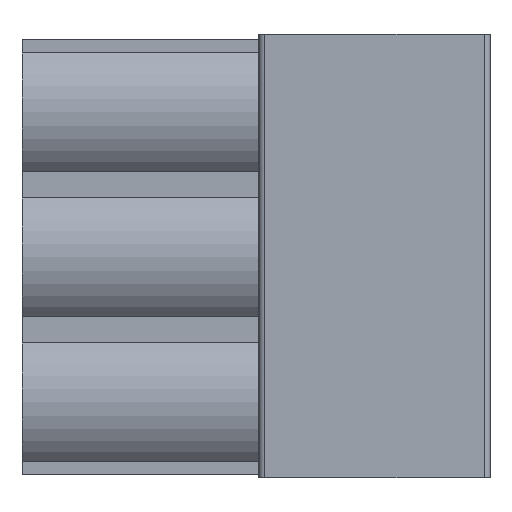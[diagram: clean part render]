
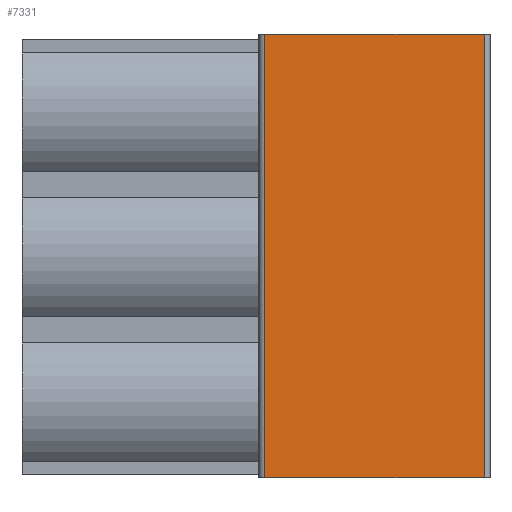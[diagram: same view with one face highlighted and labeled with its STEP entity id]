
A CAD part, front view. The second image highlights one B-rep face of the part: STEP entity #7331.
In plain terms, the highlighted planar face has unit normal (0, -1, 0).
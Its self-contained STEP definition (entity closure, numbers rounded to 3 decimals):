
#450=DIRECTION('',(0.,0.,1.));
#451=VECTOR('',#450,15.54);
#452=CARTESIAN_POINT('',(16.2,0.,-29.941));
#453=LINE('',#452,#451);
#458=DIRECTION('',(1.,0.,0.));
#459=VECTOR('',#458,7.7);
#460=CARTESIAN_POINT('',(8.5,0.,-14.401));
#461=LINE('',#460,#459);
#466=DIRECTION('',(0.,0.,-1.));
#467=VECTOR('',#466,15.54);
#468=CARTESIAN_POINT('',(8.5,0.,-14.401));
#469=LINE('',#468,#467);
#499=DIRECTION('',(1.,0.,0.));
#500=VECTOR('',#499,7.7);
#501=CARTESIAN_POINT('',(8.5,0.,-29.941));
#502=LINE('',#501,#500);
#6133=CARTESIAN_POINT('',(16.2,0.,-14.401));
#6134=VERTEX_POINT('',#6133);
#6135=CARTESIAN_POINT('',(8.5,0.,-14.401));
#6136=VERTEX_POINT('',#6135);
#6137=CARTESIAN_POINT('',(8.5,0.,-29.941));
#6138=VERTEX_POINT('',#6137);
#6139=CARTESIAN_POINT('',(16.2,0.,-29.941));
#6140=VERTEX_POINT('',#6139);
#7317=CARTESIAN_POINT('',(12.35,0.,-27.351));
#7318=DIRECTION('',(0.,1.,0.));
#7319=DIRECTION('',(1.,0.,0.));
#7320=AXIS2_PLACEMENT_3D('',#7317,#7318,#7319);
#7321=PLANE('',#7320);
#7323=ORIENTED_EDGE('',*,*,#7322,.F.);
#7325=ORIENTED_EDGE('',*,*,#7324,.T.);
#7326=ORIENTED_EDGE('',*,*,#7307,.F.);
#7328=ORIENTED_EDGE('',*,*,#7327,.F.);
#7329=EDGE_LOOP('',(#7323,#7325,#7326,#7328));
#7330=FACE_OUTER_BOUND('',#7329,.F.);
#7331=ADVANCED_FACE('',(#7330),#7321,.F.);
#7307=EDGE_CURVE('',#6140,#6134,#453,.T.);
#7322=EDGE_CURVE('',#6136,#6138,#469,.T.);
#7324=EDGE_CURVE('',#6136,#6134,#461,.T.);
#7327=EDGE_CURVE('',#6138,#6140,#502,.T.);
